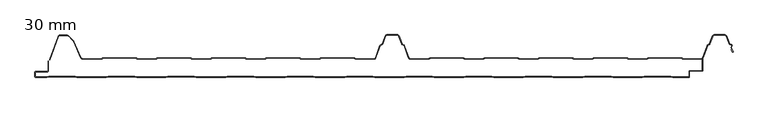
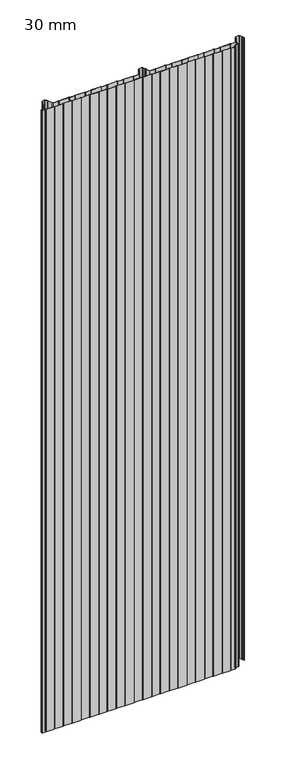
"""IFC4 building model written with IfcOpenShell, lengths in millimetres: plate geometry, HIANSA PANEL - H20.F01.004-PANELES DE CUBIERTA SIN TAPAJUNTA - EASY CUB 3GR - Panel de Muro Cortina : 30 mm."""

from ifc_helpers import new_model, si_unit, point, frame_2d, origin, origin_with_axes, place, context, project, spatial, polyline, circle_curve, trimmed, segment, composite_curve, outline, extrude, source, transform, mapped, element, save


def plate_30_mm_89a1664e(model_context):
    return source(origin(), model_context, "Body", "SweptSolid", [
        extrude(outline(polyline([(513.0200154, 26.9139578), (513.5200154, 28.0369762), (513.5200154, 16.25), (513.0200154, 15.535926), (513.0200154, 26.9139578)])), origin_with_axes(), (0.0, 0.0, 1.0), 3390.8509027),
        extrude(outline(polyline([(-486.0046627, 15.4267187), (-486.4799843, 16.25), (-486.4799843, 24.6399643), (-486.0046627, 25.4632456), (-486.0046627, 15.4267187)])), origin_with_axes(), (0.0, 0.0, 1.0), 3390.8509027),
        extrude(outline(composite_curve([segment(trimmed(circle_curve(frame_2d((-486.9813922, 9.7640482)), 0.998858), [point((-485.9825353, 9.7655207))], [point((-486.9813922, 8.7651902))], False, "CARTESIAN"), True, "CONTINUOUS"), segment(polyline([(-486.9813922, 8.7651902), (-505.4768583, 8.7651905)]), True, "CONTINUOUS"), segment(trimmed(circle_curve(frame_2d((-505.4798404, 8.2649415)), 0.5002578), [point((-505.4768583, 8.7651905))], [point((-505.9800982, 8.2649415))], True, "CARTESIAN"), True, "CONTINUOUS"), segment(polyline([(-505.9800982, 8.2649415), (-505.9800982, 1.0000206)]), True, "CONTINUOUS"), segment(trimmed(circle_curve(frame_2d((-505.4800365, 1.0000206)), 0.5000618), [point((-505.9800982, 1.0000206))], [point((-505.4800365, 0.4999588))], True, "CARTESIAN"), True, "CONTINUOUS"), segment(polyline([(-505.4800365, 0.4999588), (-488.3212473, 0.4999588), (-485.3211238, 1.5), (-445.1588462, 1.5), (-442.1588462, 0.5), (-397.3211238, 0.5), (-394.3211238, 1.5), (-354.1588462, 1.5), (-351.1588462, 0.5), (-306.3211238, 0.5), (-303.3211238, 1.5), (-263.1588462, 1.5), (-260.1588462, 0.5), (-215.3211238, 0.5), (-212.3211238, 1.5), (-172.1588462, 1.5), (-169.1588462, 0.5), (-124.3211238, 0.5), (-121.3211238, 1.5), (-81.1588462, 1.5), (-78.1588462, 0.5), (-33.3211238, 0.5), (-30.3211238, 1.5), (9.8411538, 1.5), (12.8411538, 0.5), (57.6788762, 0.5), (60.6788762, 1.5), (100.8411538, 1.5), (103.8411538, 0.5), (148.6788762, 0.5), (151.6788762, 1.5), (191.8411538, 1.5), (194.8411538, 0.5), (239.6788762, 0.5), (242.6788762, 1.5), (282.8411538, 1.5), (285.8411538, 0.5), (330.6788762, 0.5), (333.6788762, 1.5), (373.8411538, 1.5), (376.8411538, 0.5), (421.6788762, 0.5), (424.6788762, 1.5), (464.8411538, 1.5), (467.8411538, 0.5), (492.5200154, 0.5)]), True, "CONTINUOUS"), segment(trimmed(circle_curve(frame_2d((492.5200154, 1.0)), 0.5), [point((492.5200154, 0.5))], [point((493.0200154, 1.0))], True, "CARTESIAN"), True, "CONTINUOUS"), segment(polyline([(493.0200154, 1.0), (493.0200154, 9.1271447)]), True, "CONTINUOUS"), segment(trimmed(circle_curve(frame_2d((494.0200154, 9.1271447)), 1.0), [point((493.0200154, 9.1271447))], [point((494.0200154, 10.1271447))], False, "CARTESIAN"), True, "CONTINUOUS"), segment(polyline([(494.0200154, 10.1271447), (512.5169602, 10.1271447)]), True, "CONTINUOUS"), segment(trimmed(circle_curve(frame_2d((512.5200154, 10.6271354)), 0.5), [point((512.5169602, 10.1271447))], [point((513.0200154, 10.6271354))], True, "CARTESIAN"), True, "CONTINUOUS"), segment(polyline([(513.0200154, 10.6271354), (513.0200154, 15.535926), (513.5200154, 16.25), (513.5200154, 10.6271354)]), True, "CONTINUOUS"), segment(trimmed(circle_curve(frame_2d((512.5200154, 10.6271354)), 1.0), [point((513.5200154, 10.6271354))], [point((512.5200154, 9.6271354))], False, "CARTESIAN"), True, "CONTINUOUS"), segment(polyline([(512.5200154, 9.6271354), (494.0230705, 9.6271354)]), True, "CONTINUOUS"), segment(trimmed(circle_curve(frame_2d((494.0200154, 9.1271447)), 0.5), [point((494.0230705, 9.6271354))], [point((493.5200154, 9.1271447))], True, "CARTESIAN"), True, "CONTINUOUS"), segment(polyline([(493.5200154, 9.1271447), (493.5200154, 1.0)]), True, "CONTINUOUS"), segment(trimmed(circle_curve(frame_2d((492.5200154, 1.0)), 1.0), [point((493.5200154, 1.0))], [point((492.5200154, 0.0))], False, "CARTESIAN"), True, "CONTINUOUS"), segment(polyline([(492.5200154, 0.0), (467.760015, 0.0), (464.760015, 1.0), (424.760015, 1.0), (421.760015, 0.0), (376.760015, 0.0), (373.760015, 1.0), (333.760015, 1.0), (330.760015, 0.0), (285.760015, 0.0), (282.760015, 1.0), (242.760015, 1.0), (239.760015, 0.0), (194.760015, 0.0), (191.760015, 1.0), (151.760015, 1.0), (148.760015, 0.0), (103.760015, 0.0), (100.760015, 1.0), (60.760015, 1.0), (57.760015, 0.0), (12.760015, 0.0), (9.760015, 1.0), (-30.239985, 1.0), (-33.239985, 0.0), (-78.239985, 0.0), (-81.239985, 1.0), (-121.239985, 1.0), (-124.239985, 0.0), (-169.239985, 0.0), (-172.239985, 1.0), (-212.239985, 1.0), (-215.239985, 0.0), (-260.239985, 0.0), (-263.239985, 1.0), (-303.239985, 1.0), (-306.239985, 0.0), (-351.239985, 0.0), (-354.239985, 1.0), (-394.239985, 1.0), (-397.239985, 0.0), (-442.239985, 0.0), (-445.239985, 1.0), (-485.239985, 1.0), (-488.239985, 0.0), (-505.479985, 0.0)]), True, "CONTINUOUS"), segment(trimmed(circle_curve(frame_2d((-505.479985, 1.0)), 1.0), [point((-505.479985, 0.0))], [point((-506.479985, 1.0))], False, "CARTESIAN"), True, "CONTINUOUS"), segment(polyline([(-506.479985, 1.0), (-506.479985, 8.262651)]), True, "CONTINUOUS"), segment(trimmed(circle_curve(frame_2d((-505.479985, 8.262651)), 1.0), [point((-506.479985, 8.262651))], [point((-505.479985, 9.262651))], False, "CARTESIAN"), True, "CONTINUOUS"), segment(polyline([(-505.479985, 9.262651), (-486.9830395, 9.262651)]), True, "CONTINUOUS"), segment(trimmed(circle_curve(frame_2d((-486.9799843, 9.7626416)), 0.5), [point((-486.9830395, 9.262651))], [point((-486.4799843, 9.7626416))], True, "CARTESIAN"), True, "CONTINUOUS"), segment(polyline([(-486.4799843, 9.7626416), (-486.4799843, 16.25), (-485.9825353, 15.388393), (-485.9825353, 9.7655207)]), True, "CONTINUOUS")], self_intersect=False)), origin_with_axes(), (0.0, 0.0, 1.0), 3390.8509027),
        extrude(outline(composite_curve([segment(polyline([(-484.137089, 26.794297), (-470.9862026, 62.9260604)]), True, "CONTINUOUS"), segment(trimmed(circle_curve(frame_2d((-468.1671247, 61.9)), 3.0), [point((-470.9862026, 62.9260604))], [point((-468.1671247, 64.9))], False, "CARTESIAN"), True, "CONTINUOUS"), segment(polyline([(-468.1671247, 64.9), (-458.1823567, 64.9)]), True, "CONTINUOUS"), segment(trimmed(circle_curve(frame_2d((-458.1823567, 59.9)), 5.0), [point((-458.1823567, 64.9))], [point((-454.6468228, 63.4355339))], False, "CARTESIAN"), True, "CONTINUOUS"), segment(polyline([(-454.6468228, 63.4355339), (-447.9600419, 56.7487529)]), True, "CONTINUOUS"), segment(trimmed(circle_curve(frame_2d((-451.4955758, 53.213219)), 5.0), [point((-447.9600419, 56.7487529))], [point((-446.9079188, 55.2015359))], False, "CARTESIAN"), True, "CONTINUOUS"), segment(polyline([(-446.9079188, 55.2015359), (-436.1184882, 30.3070099)]), True, "CONTINUOUS"), segment(trimmed(circle_curve(frame_2d((-433.365894, 31.5)), 3.0), [point((-436.1184882, 30.3070099))], [point((-433.365894, 28.5))], True, "CARTESIAN"), True, "CONTINUOUS"), segment(polyline([(-433.365894, 28.5), (-405.5009812, 28.5)]), True, "CONTINUOUS"), segment(trimmed(circle_curve(frame_2d((-405.5009812, 30.5)), 2.0), [point((-405.5009812, 28.5))], [point((-404.2709893, 28.9229394))], True, "CARTESIAN"), True, "CONTINUOUS"), segment(polyline([(-404.2709893, 28.9229394), (-403.6196414, 29.5404749)]), True, "CONTINUOUS"), segment(trimmed(circle_curve(frame_2d((-402.3441269, 28.0)), 2.0), [point((-403.6196414, 29.5404749))], [point((-402.3441269, 30.0))], False, "CARTESIAN"), True, "CONTINUOUS"), segment(polyline([(-402.3441269, 30.0), (-352.3428935, 30.0)]), True, "CONTINUOUS"), segment(trimmed(circle_curve(frame_2d((-352.3428935, 28.0)), 2.0), [point((-352.3428935, 30.0))], [point((-351.067379, 29.5404749))], False, "CARTESIAN"), True, "CONTINUOUS"), segment(polyline([(-351.067379, 29.5404749), (-350.4160311, 28.9229394)]), True, "CONTINUOUS"), segment(trimmed(circle_curve(frame_2d((-349.1860393, 30.5)), 2.0), [point((-350.4160311, 28.9229394))], [point((-349.1860393, 28.5))], True, "CARTESIAN"), True, "CONTINUOUS"), segment(polyline([(-349.1860393, 28.5), (-322.1676478, 28.5)]), True, "CONTINUOUS"), segment(trimmed(circle_curve(frame_2d((-322.1676478, 30.5)), 2.0), [point((-322.1676478, 28.5))], [point((-320.937656, 28.9229394))], True, "CARTESIAN"), True, "CONTINUOUS"), segment(polyline([(-320.937656, 28.9229394), (-320.286308, 29.5404749)]), True, "CONTINUOUS"), segment(trimmed(circle_curve(frame_2d((-319.0107936, 28.0)), 2.0), [point((-320.286308, 29.5404749))], [point((-319.0107936, 30.0))], False, "CARTESIAN"), True, "CONTINUOUS"), segment(polyline([(-319.0107936, 30.0), (-269.0095602, 30.0)]), True, "CONTINUOUS"), segment(trimmed(circle_curve(frame_2d((-269.0095602, 28.0)), 2.0), [point((-269.0095602, 30.0))], [point((-267.7340457, 29.5404749))], False, "CARTESIAN"), True, "CONTINUOUS"), segment(polyline([(-267.7340457, 29.5404749), (-267.0826978, 28.9229394)]), True, "CONTINUOUS"), segment(trimmed(circle_curve(frame_2d((-265.8527059, 30.5)), 2.0), [point((-267.0826978, 28.9229394))], [point((-265.8527059, 28.5))], True, "CARTESIAN"), True, "CONTINUOUS"), segment(polyline([(-265.8527059, 28.5), (-238.8343145, 28.5)]), True, "CONTINUOUS"), segment(trimmed(circle_curve(frame_2d((-238.8343145, 30.5)), 2.0), [point((-238.8343145, 28.5))], [point((-237.6043226, 28.9229394))], True, "CARTESIAN"), True, "CONTINUOUS"), segment(polyline([(-237.6043226, 28.9229394), (-236.9529747, 29.5404749)]), True, "CONTINUOUS"), segment(trimmed(circle_curve(frame_2d((-235.6774602, 28.0)), 2.0), [point((-236.9529747, 29.5404749))], [point((-235.6774602, 30.0))], False, "CARTESIAN"), True, "CONTINUOUS"), segment(polyline([(-235.6774602, 30.0), (-185.6762268, 30.0)]), True, "CONTINUOUS"), segment(trimmed(circle_curve(frame_2d((-185.6762268, 28.0)), 2.0), [point((-185.6762268, 30.0))], [point((-184.4007124, 29.5404749))], False, "CARTESIAN"), True, "CONTINUOUS"), segment(polyline([(-184.4007124, 29.5404749), (-183.7493645, 28.9229394)]), True, "CONTINUOUS"), segment(trimmed(circle_curve(frame_2d((-182.5193726, 30.5)), 2.0), [point((-183.7493645, 28.9229394))], [point((-182.5193726, 28.5))], True, "CARTESIAN"), True, "CONTINUOUS"), segment(polyline([(-182.5193726, 28.5), (-155.5009812, 28.5)]), True, "CONTINUOUS"), segment(trimmed(circle_curve(frame_2d((-155.5009812, 30.5)), 2.0), [point((-155.5009812, 28.5))], [point((-154.2709893, 28.9229394))], True, "CARTESIAN"), True, "CONTINUOUS"), segment(polyline([(-154.2709893, 28.9229394), (-153.6196414, 29.5404749)]), True, "CONTINUOUS"), segment(trimmed(circle_curve(frame_2d((-152.3441269, 28.0)), 2.0), [point((-153.6196414, 29.5404749))], [point((-152.3441269, 30.0))], False, "CARTESIAN"), True, "CONTINUOUS"), segment(polyline([(-152.3441269, 30.0), (-102.3428935, 30.0)]), True, "CONTINUOUS"), segment(trimmed(circle_curve(frame_2d((-102.3428935, 28.0)), 2.0), [point((-102.3428935, 30.0))], [point((-101.067379, 29.5404749))], False, "CARTESIAN"), True, "CONTINUOUS"), segment(polyline([(-101.067379, 29.5404749), (-100.4160311, 28.9229394)]), True, "CONTINUOUS"), segment(trimmed(circle_curve(frame_2d((-99.1860393, 30.5)), 2.0), [point((-100.4160311, 28.9229394))], [point((-99.1860393, 28.5))], True, "CARTESIAN"), True, "CONTINUOUS"), segment(polyline([(-99.1860393, 28.5), (-72.1676478, 28.5)]), True, "CONTINUOUS"), segment(trimmed(circle_curve(frame_2d((-72.1676478, 30.5)), 2.0), [point((-72.1676478, 28.5))], [point((-70.937656, 28.9229394))], True, "CARTESIAN"), True, "CONTINUOUS"), segment(polyline([(-70.937656, 28.9229394), (-70.286308, 29.5404749)]), True, "CONTINUOUS"), segment(trimmed(circle_curve(frame_2d((-69.0107936, 28.0)), 2.0), [point((-70.286308, 29.5404749))], [point((-69.0107936, 30.0))], False, "CARTESIAN"), True, "CONTINUOUS"), segment(polyline([(-69.0107936, 30.0), (-19.0095602, 30.0)]), True, "CONTINUOUS"), segment(trimmed(circle_curve(frame_2d((-19.0095602, 28.0)), 2.0), [point((-19.0095602, 30.0))], [point((-17.7340457, 29.5404749))], False, "CARTESIAN"), True, "CONTINUOUS"), segment(polyline([(-17.7340457, 29.5404749), (-17.0826978, 28.9229394)]), True, "CONTINUOUS"), segment(trimmed(circle_curve(frame_2d((-15.8527059, 30.5)), 2.0), [point((-17.0826978, 28.9229394))], [point((-15.8527059, 28.5))], True, "CARTESIAN"), True, "CONTINUOUS"), segment(polyline([(-15.8527059, 28.5), (11.1656852, 28.5)]), True, "CONTINUOUS"), segment(trimmed(circle_curve(frame_2d((11.1656852, 31.5)), 3.0), [point((11.1656852, 28.5))], [point((13.984763, 30.4739395))], True, "CARTESIAN"), True, "CONTINUOUS"), segment(polyline([(13.984763, 30.4739395), (20.7029918, 48.9321192)]), True, "CONTINUOUS"), segment(trimmed(circle_curve(frame_2d((22.2064999, 48.3848869)), 1.6), [point((20.7029918, 48.9321192))], [point((21.6592677, 49.8883951))], False, "CARTESIAN"), True, "CONTINUOUS"), segment(polyline([(21.6592677, 49.8883951), (23.5053315, 50.5603074)]), True, "CONTINUOUS"), segment(trimmed(circle_curve(frame_2d((23.1633114, 51.5)), 1.0), [point((23.5053315, 50.5603074))], [point((24.103004, 51.1579799))], True, "CARTESIAN"), True, "CONTINUOUS"), segment(polyline([(24.103004, 51.1579799), (28.4609262, 63.1312725)]), True, "CONTINUOUS"), segment(trimmed(circle_curve(frame_2d((31.8438196, 61.9)), 3.6), [point((28.4609262, 63.1312725))], [point((31.8438196, 65.5))], False, "CARTESIAN"), True, "CONTINUOUS"), segment(polyline([(31.8438196, 65.5), (46.8024933, 65.5)]), True, "CONTINUOUS"), segment(trimmed(circle_curve(frame_2d((46.8024933, 61.9)), 3.6), [point((46.8024933, 65.5))], [point((50.1853868, 63.1312725))], False, "CARTESIAN"), True, "CONTINUOUS"), segment(polyline([(50.1853868, 63.1312725), (54.5433089, 51.1579799)]), True, "CONTINUOUS"), segment(trimmed(circle_curve(frame_2d((55.4830015, 51.5)), 1.0), [point((54.5433089, 51.1579799))], [point((55.1409814, 50.5603074))], True, "CARTESIAN"), True, "CONTINUOUS"), segment(polyline([(55.1409814, 50.5603074), (56.9870452, 49.8883951)]), True, "CONTINUOUS"), segment(trimmed(circle_curve(frame_2d((56.439813, 48.3848869)), 1.6), [point((56.9870452, 49.8883951))], [point((57.9433212, 48.9321192))], False, "CARTESIAN"), True, "CONTINUOUS"), segment(polyline([(57.9433212, 48.9321192), (64.6615499, 30.4739395)]), True, "CONTINUOUS"), segment(trimmed(circle_curve(frame_2d((67.4806278, 31.5)), 3.0), [point((64.6615499, 30.4739395))], [point((67.4806278, 28.5))], True, "CARTESIAN"), True, "CONTINUOUS"), segment(polyline([(67.4806278, 28.5), (94.4990188, 28.5)]), True, "CONTINUOUS"), segment(trimmed(circle_curve(frame_2d((94.4990188, 30.5)), 2.0), [point((94.4990188, 28.5))], [point((95.7290107, 28.9229394))], True, "CARTESIAN"), True, "CONTINUOUS"), segment(polyline([(95.7290107, 28.9229394), (96.3803586, 29.5404749)]), True, "CONTINUOUS"), segment(trimmed(circle_curve(frame_2d((97.6558731, 28.0)), 2.0), [point((96.3803586, 29.5404749))], [point((97.6558731, 30.0))], False, "CARTESIAN"), True, "CONTINUOUS"), segment(polyline([(97.6558731, 30.0), (147.6571065, 30.0)]), True, "CONTINUOUS"), segment(trimmed(circle_curve(frame_2d((147.6571065, 28.0)), 2.0), [point((147.6571065, 30.0))], [point((148.932621, 29.5404749))], False, "CARTESIAN"), True, "CONTINUOUS"), segment(polyline([(148.932621, 29.5404749), (149.5839689, 28.9229394)]), True, "CONTINUOUS"), segment(trimmed(circle_curve(frame_2d((150.8139607, 30.5)), 2.0), [point((149.5839689, 28.9229394))], [point((150.8139607, 28.5))], True, "CARTESIAN"), True, "CONTINUOUS"), segment(polyline([(150.8139607, 28.5), (177.8323522, 28.5)]), True, "CONTINUOUS"), segment(trimmed(circle_curve(frame_2d((177.8323522, 30.5)), 2.0), [point((177.8323522, 28.5))], [point((179.062344, 28.9229394))], True, "CARTESIAN"), True, "CONTINUOUS"), segment(polyline([(179.062344, 28.9229394), (179.713692, 29.5404749)]), True, "CONTINUOUS"), segment(trimmed(circle_curve(frame_2d((180.9892064, 28.0)), 2.0), [point((179.713692, 29.5404749))], [point((180.9892064, 30.0))], False, "CARTESIAN"), True, "CONTINUOUS"), segment(polyline([(180.9892064, 30.0), (230.9904398, 30.0)]), True, "CONTINUOUS"), segment(trimmed(circle_curve(frame_2d((230.9904398, 28.0)), 2.0), [point((230.9904398, 30.0))], [point((232.2659543, 29.5404749))], False, "CARTESIAN"), True, "CONTINUOUS"), segment(polyline([(232.2659543, 29.5404749), (232.9173022, 28.9229394)]), True, "CONTINUOUS"), segment(trimmed(circle_curve(frame_2d((234.1472941, 30.5)), 2.0), [point((232.9173022, 28.9229394))], [point((234.1472941, 28.5))], True, "CARTESIAN"), True, "CONTINUOUS"), segment(polyline([(234.1472941, 28.5), (261.1656855, 28.5)]), True, "CONTINUOUS"), segment(trimmed(circle_curve(frame_2d((261.1656855, 30.5)), 2.0), [point((261.1656855, 28.5))], [point((262.3956774, 28.9229394))], True, "CARTESIAN"), True, "CONTINUOUS"), segment(polyline([(262.3956774, 28.9229394), (263.0470253, 29.5404749)]), True, "CONTINUOUS"), segment(trimmed(circle_curve(frame_2d((264.3225398, 28.0)), 2.0), [point((263.0470253, 29.5404749))], [point((264.3225398, 30.0))], False, "CARTESIAN"), True, "CONTINUOUS"), segment(polyline([(264.3225398, 30.0), (314.3237732, 30.0)]), True, "CONTINUOUS"), segment(trimmed(circle_curve(frame_2d((314.3237732, 28.0)), 2.0), [point((314.3237732, 30.0))], [point((315.5992876, 29.5404749))], False, "CARTESIAN"), True, "CONTINUOUS"), segment(polyline([(315.5992876, 29.5404749), (316.2506355, 28.9229394)]), True, "CONTINUOUS"), segment(trimmed(circle_curve(frame_2d((317.4806274, 30.5)), 2.0), [point((316.2506355, 28.9229394))], [point((317.4806274, 28.5))], True, "CARTESIAN"), True, "CONTINUOUS"), segment(polyline([(317.4806274, 28.5), (344.4990188, 28.5)]), True, "CONTINUOUS"), segment(trimmed(circle_curve(frame_2d((344.4990188, 30.5)), 2.0), [point((344.4990188, 28.5))], [point((345.7290107, 28.9229394))], True, "CARTESIAN"), True, "CONTINUOUS"), segment(polyline([(345.7290107, 28.9229394), (346.3803586, 29.5404749)]), True, "CONTINUOUS"), segment(trimmed(circle_curve(frame_2d((347.6558731, 28.0)), 2.0), [point((346.3803586, 29.5404749))], [point((347.6558731, 30.0))], False, "CARTESIAN"), True, "CONTINUOUS"), segment(polyline([(347.6558731, 30.0), (397.6571065, 30.0)]), True, "CONTINUOUS"), segment(trimmed(circle_curve(frame_2d((397.6571065, 28.0)), 2.0), [point((397.6571065, 30.0))], [point((398.932621, 29.5404749))], False, "CARTESIAN"), True, "CONTINUOUS"), segment(polyline([(398.932621, 29.5404749), (399.5839689, 28.9229394)]), True, "CONTINUOUS"), segment(trimmed(circle_curve(frame_2d((400.8139607, 30.5)), 2.0), [point((399.5839689, 28.9229394))], [point((400.8139607, 28.5))], True, "CARTESIAN"), True, "CONTINUOUS"), segment(polyline([(400.8139607, 28.5), (427.8323522, 28.5)]), True, "CONTINUOUS"), segment(trimmed(circle_curve(frame_2d((427.8323522, 30.5)), 2.0), [point((427.8323522, 28.5))], [point((429.062344, 28.9229394))], True, "CARTESIAN"), True, "CONTINUOUS"), segment(polyline([(429.062344, 28.9229394), (429.713692, 29.5404749)]), True, "CONTINUOUS"), segment(trimmed(circle_curve(frame_2d((430.9892064, 28.0)), 2.0), [point((429.713692, 29.5404749))], [point((430.9892064, 30.0))], False, "CARTESIAN"), True, "CONTINUOUS"), segment(polyline([(430.9892064, 30.0), (480.9904398, 30.0)]), True, "CONTINUOUS"), segment(trimmed(circle_curve(frame_2d((480.9904398, 28.0)), 2.0), [point((480.9904398, 30.0))], [point((482.2659543, 29.5404749))], False, "CARTESIAN"), True, "CONTINUOUS"), segment(polyline([(482.2659543, 29.5404749), (482.9173022, 28.9229394)]), True, "CONTINUOUS"), segment(trimmed(circle_curve(frame_2d((484.1472941, 30.5)), 2.0), [point((482.9173022, 28.9229394))], [point((484.1472941, 28.5))], True, "CARTESIAN"), True, "CONTINUOUS"), segment(polyline([(484.1472941, 28.5), (511.1656852, 28.5)]), True, "CONTINUOUS"), segment(trimmed(circle_curve(frame_2d((511.1656852, 31.5)), 3.0), [point((511.1656852, 28.5))], [point((513.984763, 30.4739395))], True, "CARTESIAN"), True, "CONTINUOUS"), segment(polyline([(513.984763, 30.4739395), (520.7029918, 48.9321192)]), True, "CONTINUOUS"), segment(trimmed(circle_curve(frame_2d((522.2064999, 48.3848869)), 1.6), [point((520.7029918, 48.9321192))], [point((521.6592677, 49.8883951))], False, "CARTESIAN"), True, "CONTINUOUS"), segment(polyline([(521.6592677, 49.8883951), (523.5053315, 50.5603074)]), True, "CONTINUOUS"), segment(trimmed(circle_curve(frame_2d((523.1633114, 51.5)), 1.0), [point((523.5053315, 50.5603074))], [point((524.103004, 51.1579799))], True, "CARTESIAN"), True, "CONTINUOUS"), segment(polyline([(524.103004, 51.1579799), (528.4609262, 63.1312725)]), True, "CONTINUOUS"), segment(trimmed(circle_curve(frame_2d((531.8438196, 61.9)), 3.6), [point((528.4609262, 63.1312725))], [point((531.8438196, 65.5))], False, "CARTESIAN"), True, "CONTINUOUS"), segment(polyline([(531.8438196, 65.5), (546.9192854, 65.5)]), True, "CONTINUOUS"), segment(trimmed(circle_curve(frame_2d((546.9192854, 61.9)), 3.6), [point((546.9192854, 65.5))], [point((550.2444191, 63.2796687))], False, "CARTESIAN"), True, "CONTINUOUS"), segment(polyline([(550.2444191, 63.2796687), (555.167008, 51.4157576), (557.5975103, 50.2847949)]), True, "CONTINUOUS"), segment(trimmed(circle_curve(frame_2d((556.9224975, 48.8341544)), 1.6), [point((557.5975103, 50.2847949))], [point((558.4262226, 48.2875187))], False, "CARTESIAN"), True, "CONTINUOUS"), segment(polyline([(558.4262226, 48.2875187), (557.5103517, 45.7680746), (560.1304895, 39.4532914)]), True, "CONTINUOUS"), segment(trimmed(circle_curve(frame_2d((559.6686653, 39.2616707)), 0.5), [point((560.1304895, 39.4532914))], [point((559.2068412, 39.0700501))], False, "CARTESIAN"), True, "CONTINUOUS"), segment(polyline([(559.2068412, 39.0700501), (557.7298191, 42.6298149), (557.9300937, 43.4517949), (557.1976077, 45.2171566)]), True, "CONTINUOUS"), segment(trimmed(circle_curve(frame_2d((558.5830801, 45.7920185)), 1.5), [point((557.1976077, 45.2171566))], [point((557.1733377, 46.3044895))], False, "CARTESIAN"), True, "CONTINUOUS"), segment(polyline([(557.1733377, 46.3044895), (557.9563085, 48.4583424)]), True, "CONTINUOUS"), segment(trimmed(circle_curve(frame_2d((556.9224975, 48.8341544)), 1.1), [point((557.9563085, 48.4583424))], [point((557.3865688, 49.8314697))], True, "CARTESIAN"), True, "CONTINUOUS"), segment(polyline([(557.3865688, 49.8314697), (555.3087516, 50.7983208)]), True, "CONTINUOUS"), segment(trimmed(circle_curve(frame_2d((555.9415761, 52.1582962)), 1.5), [point((555.3087516, 50.7983208))], [point((554.5561037, 51.5834343))], False, "CARTESIAN"), True, "CONTINUOUS"), segment(polyline([(554.5561037, 51.5834343), (549.782595, 63.088048)]), True, "CONTINUOUS"), segment(trimmed(circle_curve(frame_2d((546.9192854, 61.9)), 3.1), [point((549.782595, 63.088048))], [point((546.9192854, 65.0))], True, "CARTESIAN"), True, "CONTINUOUS"), segment(polyline([(546.9192854, 65.0), (531.8438196, 65.0)]), True, "CONTINUOUS"), segment(trimmed(circle_curve(frame_2d((531.8438196, 61.9)), 3.1), [point((531.8438196, 65.0))], [point((528.9307725, 62.9602624))], True, "CARTESIAN"), True, "CONTINUOUS"), segment(polyline([(528.9307725, 62.9602624), (524.5728503, 50.9869698)]), True, "CONTINUOUS"), segment(trimmed(circle_curve(frame_2d((523.1633114, 51.5)), 1.5), [point((524.5728503, 50.9869698))], [point((523.6763416, 50.0904611))], False, "CARTESIAN"), True, "CONTINUOUS"), segment(polyline([(523.6763416, 50.0904611), (521.8302778, 49.4185488)]), True, "CONTINUOUS"), segment(trimmed(circle_curve(frame_2d((522.2064999, 48.3848869)), 1.1), [point((521.8302778, 49.4185488))], [point((521.1728381, 48.7611091))], True, "CARTESIAN"), True, "CONTINUOUS"), segment(polyline([(521.1728381, 48.7611091), (514.4546093, 30.3029294)]), True, "CONTINUOUS"), segment(trimmed(circle_curve(frame_2d((511.1656852, 31.5)), 3.5), [point((514.4546093, 30.3029294))], [point((511.1656852, 28.0))], False, "CARTESIAN"), True, "CONTINUOUS"), segment(polyline([(511.1656852, 28.0), (484.1472941, 28.0)]), True, "CONTINUOUS"), segment(trimmed(circle_curve(frame_2d((484.1472941, 30.5)), 2.5), [point((484.1472941, 28.0))], [point((482.5898135, 28.54443))], False, "CARTESIAN"), True, "CONTINUOUS"), segment(polyline([(482.5898135, 28.54443), (481.9350123, 29.1652394)]), True, "CONTINUOUS"), segment(trimmed(circle_curve(frame_2d((480.9904398, 28.0)), 1.5), [point((481.9350123, 29.1652394))], [point((480.9904398, 29.5))], True, "CARTESIAN"), True, "CONTINUOUS"), segment(polyline([(480.9904398, 29.5), (430.9892064, 29.5)]), True, "CONTINUOUS"), segment(trimmed(circle_curve(frame_2d((430.9892064, 28.0)), 1.5), [point((430.9892064, 29.5))], [point((430.044634, 29.1652394))], True, "CARTESIAN"), True, "CONTINUOUS"), segment(polyline([(430.044634, 29.1652394), (429.3898328, 28.54443)]), True, "CONTINUOUS"), segment(trimmed(circle_curve(frame_2d((427.8323522, 30.5)), 2.5), [point((429.3898328, 28.54443))], [point((427.8323522, 28.0))], False, "CARTESIAN"), True, "CONTINUOUS"), segment(polyline([(427.8323522, 28.0), (400.8139607, 28.0)]), True, "CONTINUOUS"), segment(trimmed(circle_curve(frame_2d((400.8139607, 30.5)), 2.5), [point((400.8139607, 28.0))], [point((399.2564801, 28.54443))], False, "CARTESIAN"), True, "CONTINUOUS"), segment(polyline([(399.2564801, 28.54443), (398.6016789, 29.1652394)]), True, "CONTINUOUS"), segment(trimmed(circle_curve(frame_2d((397.6571065, 28.0)), 1.5), [point((398.6016789, 29.1652394))], [point((397.6571065, 29.5))], True, "CARTESIAN"), True, "CONTINUOUS"), segment(polyline([(397.6571065, 29.5), (347.6558731, 29.5)]), True, "CONTINUOUS"), segment(trimmed(circle_curve(frame_2d((347.6558731, 28.0)), 1.5), [point((347.6558731, 29.5))], [point((346.7113007, 29.1652394))], True, "CARTESIAN"), True, "CONTINUOUS"), segment(polyline([(346.7113007, 29.1652394), (346.0564995, 28.54443)]), True, "CONTINUOUS"), segment(trimmed(circle_curve(frame_2d((344.4990188, 30.5)), 2.5), [point((346.0564995, 28.54443))], [point((344.4990188, 28.0))], False, "CARTESIAN"), True, "CONTINUOUS"), segment(polyline([(344.4990188, 28.0), (317.4806274, 28.0)]), True, "CONTINUOUS"), segment(trimmed(circle_curve(frame_2d((317.4806274, 30.5)), 2.5), [point((317.4806274, 28.0))], [point((315.9231468, 28.54443))], False, "CARTESIAN"), True, "CONTINUOUS"), segment(polyline([(315.9231468, 28.54443), (315.2683456, 29.1652394)]), True, "CONTINUOUS"), segment(trimmed(circle_curve(frame_2d((314.3237732, 28.0)), 1.5), [point((315.2683456, 29.1652394))], [point((314.3237732, 29.5))], True, "CARTESIAN"), True, "CONTINUOUS"), segment(polyline([(314.3237732, 29.5), (264.3225398, 29.5)]), True, "CONTINUOUS"), segment(trimmed(circle_curve(frame_2d((264.3225398, 28.0)), 1.5), [point((264.3225398, 29.5))], [point((263.3779673, 29.1652394))], True, "CARTESIAN"), True, "CONTINUOUS"), segment(polyline([(263.3779673, 29.1652394), (262.7231661, 28.54443)]), True, "CONTINUOUS"), segment(trimmed(circle_curve(frame_2d((261.1656855, 30.5)), 2.5), [point((262.7231661, 28.54443))], [point((261.1656855, 28.0))], False, "CARTESIAN"), True, "CONTINUOUS"), segment(polyline([(261.1656855, 28.0), (234.1472941, 28.0)]), True, "CONTINUOUS"), segment(trimmed(circle_curve(frame_2d((234.1472941, 30.5)), 2.5), [point((234.1472941, 28.0))], [point((232.5898135, 28.54443))], False, "CARTESIAN"), True, "CONTINUOUS"), segment(polyline([(232.5898135, 28.54443), (231.9350123, 29.1652394)]), True, "CONTINUOUS"), segment(trimmed(circle_curve(frame_2d((230.9904398, 28.0)), 1.5), [point((231.9350123, 29.1652394))], [point((230.9904398, 29.5))], True, "CARTESIAN"), True, "CONTINUOUS"), segment(polyline([(230.9904398, 29.5), (180.9892064, 29.5)]), True, "CONTINUOUS"), segment(trimmed(circle_curve(frame_2d((180.9892064, 28.0)), 1.5), [point((180.9892064, 29.5))], [point((180.044634, 29.1652394))], True, "CARTESIAN"), True, "CONTINUOUS"), segment(polyline([(180.044634, 29.1652394), (179.3898328, 28.54443)]), True, "CONTINUOUS"), segment(trimmed(circle_curve(frame_2d((177.8323522, 30.5)), 2.5), [point((179.3898328, 28.54443))], [point((177.8323522, 28.0))], False, "CARTESIAN"), True, "CONTINUOUS"), segment(polyline([(177.8323522, 28.0), (150.8139607, 28.0)]), True, "CONTINUOUS"), segment(trimmed(circle_curve(frame_2d((150.8139607, 30.5)), 2.5), [point((150.8139607, 28.0))], [point((149.2564801, 28.54443))], False, "CARTESIAN"), True, "CONTINUOUS"), segment(polyline([(149.2564801, 28.54443), (148.6016789, 29.1652394)]), True, "CONTINUOUS"), segment(trimmed(circle_curve(frame_2d((147.6571065, 28.0)), 1.5), [point((148.6016789, 29.1652394))], [point((147.6571065, 29.5))], True, "CARTESIAN"), True, "CONTINUOUS"), segment(polyline([(147.6571065, 29.5), (97.6558731, 29.5)]), True, "CONTINUOUS"), segment(trimmed(circle_curve(frame_2d((97.6558731, 28.0)), 1.5), [point((97.6558731, 29.5))], [point((96.7113007, 29.1652394))], True, "CARTESIAN"), True, "CONTINUOUS"), segment(polyline([(96.7113007, 29.1652394), (96.0564995, 28.54443)]), True, "CONTINUOUS"), segment(trimmed(circle_curve(frame_2d((94.4990188, 30.5)), 2.5), [point((96.0564995, 28.54443))], [point((94.4990188, 28.0))], False, "CARTESIAN"), True, "CONTINUOUS"), segment(polyline([(94.4990188, 28.0), (67.4806278, 28.0)]), True, "CONTINUOUS"), segment(trimmed(circle_curve(frame_2d((67.4806278, 31.5)), 3.5), [point((67.4806278, 28.0))], [point((64.1917036, 30.3029294))], False, "CARTESIAN"), True, "CONTINUOUS"), segment(polyline([(64.1917036, 30.3029294), (57.4734749, 48.7611091)]), True, "CONTINUOUS"), segment(trimmed(circle_curve(frame_2d((56.439813, 48.3848869)), 1.1), [point((57.4734749, 48.7611091))], [point((56.8160352, 49.4185488))], True, "CARTESIAN"), True, "CONTINUOUS"), segment(polyline([(56.8160352, 49.4185488), (54.9699713, 50.0904611)]), True, "CONTINUOUS"), segment(trimmed(circle_curve(frame_2d((55.4830015, 51.5)), 1.5), [point((54.9699713, 50.0904611))], [point((54.0734626, 50.9869698))], False, "CARTESIAN"), True, "CONTINUOUS"), segment(polyline([(54.0734626, 50.9869698), (49.7155405, 62.9602624)]), True, "CONTINUOUS"), segment(trimmed(circle_curve(frame_2d((46.8024933, 61.9)), 3.1), [point((49.7155405, 62.9602624))], [point((46.8024933, 65.0))], True, "CARTESIAN"), True, "CONTINUOUS"), segment(polyline([(46.8024933, 65.0), (31.8438196, 65.0)]), True, "CONTINUOUS"), segment(trimmed(circle_curve(frame_2d((31.8438196, 61.9)), 3.1), [point((31.8438196, 65.0))], [point((28.9307725, 62.9602624))], True, "CARTESIAN"), True, "CONTINUOUS"), segment(polyline([(28.9307725, 62.9602624), (24.5728503, 50.9869698)]), True, "CONTINUOUS"), segment(trimmed(circle_curve(frame_2d((23.1633114, 51.5)), 1.5), [point((24.5728503, 50.9869698))], [point((23.6763416, 50.0904611))], False, "CARTESIAN"), True, "CONTINUOUS"), segment(polyline([(23.6763416, 50.0904611), (21.8302778, 49.4185488)]), True, "CONTINUOUS"), segment(trimmed(circle_curve(frame_2d((22.2064999, 48.3848869)), 1.1), [point((21.8302778, 49.4185488))], [point((21.1728381, 48.7611091))], True, "CARTESIAN"), True, "CONTINUOUS"), segment(polyline([(21.1728381, 48.7611091), (14.4546093, 30.3029294)]), True, "CONTINUOUS"), segment(trimmed(circle_curve(frame_2d((11.1656852, 31.5)), 3.5), [point((14.4546093, 30.3029294))], [point((11.1656852, 28.0))], False, "CARTESIAN"), True, "CONTINUOUS"), segment(polyline([(11.1656852, 28.0), (-15.8527059, 28.0)]), True, "CONTINUOUS"), segment(trimmed(circle_curve(frame_2d((-15.8527059, 30.5)), 2.5), [point((-15.8527059, 28.0))], [point((-17.4101865, 28.54443))], False, "CARTESIAN"), True, "CONTINUOUS"), segment(polyline([(-17.4101865, 28.54443), (-18.0649877, 29.1652394)]), True, "CONTINUOUS"), segment(trimmed(circle_curve(frame_2d((-19.0095602, 28.0)), 1.5), [point((-18.0649877, 29.1652394))], [point((-19.0095602, 29.5))], True, "CARTESIAN"), True, "CONTINUOUS"), segment(polyline([(-19.0095602, 29.5), (-69.0107936, 29.5)]), True, "CONTINUOUS"), segment(trimmed(circle_curve(frame_2d((-69.0107936, 28.0)), 1.5), [point((-69.0107936, 29.5))], [point((-69.955366, 29.1652394))], True, "CARTESIAN"), True, "CONTINUOUS"), segment(polyline([(-69.955366, 29.1652394), (-70.6101672, 28.54443)]), True, "CONTINUOUS"), segment(trimmed(circle_curve(frame_2d((-72.1676478, 30.5)), 2.5), [point((-70.6101672, 28.54443))], [point((-72.1676478, 28.0))], False, "CARTESIAN"), True, "CONTINUOUS"), segment(polyline([(-72.1676478, 28.0), (-99.1860393, 28.0)]), True, "CONTINUOUS"), segment(trimmed(circle_curve(frame_2d((-99.1860393, 30.5)), 2.5), [point((-99.1860393, 28.0))], [point((-100.7435199, 28.54443))], False, "CARTESIAN"), True, "CONTINUOUS"), segment(polyline([(-100.7435199, 28.54443), (-101.3983211, 29.1652394)]), True, "CONTINUOUS"), segment(trimmed(circle_curve(frame_2d((-102.3428935, 28.0)), 1.5), [point((-101.3983211, 29.1652394))], [point((-102.3428935, 29.5))], True, "CARTESIAN"), True, "CONTINUOUS"), segment(polyline([(-102.3428935, 29.5), (-152.3441269, 29.5)]), True, "CONTINUOUS"), segment(trimmed(circle_curve(frame_2d((-152.3441269, 28.0)), 1.5), [point((-152.3441269, 29.5))], [point((-153.2886993, 29.1652394))], True, "CARTESIAN"), True, "CONTINUOUS"), segment(polyline([(-153.2886993, 29.1652394), (-153.9435005, 28.54443)]), True, "CONTINUOUS"), segment(trimmed(circle_curve(frame_2d((-155.5009812, 30.5)), 2.5), [point((-153.9435005, 28.54443))], [point((-155.5009812, 28.0))], False, "CARTESIAN"), True, "CONTINUOUS"), segment(polyline([(-155.5009812, 28.0), (-182.5193726, 28.0)]), True, "CONTINUOUS"), segment(trimmed(circle_curve(frame_2d((-182.5193726, 30.5)), 2.5), [point((-182.5193726, 28.0))], [point((-184.0768532, 28.54443))], False, "CARTESIAN"), True, "CONTINUOUS"), segment(polyline([(-184.0768532, 28.54443), (-184.7316544, 29.1652394)]), True, "CONTINUOUS"), segment(trimmed(circle_curve(frame_2d((-185.6762268, 28.0)), 1.5), [point((-184.7316544, 29.1652394))], [point((-185.6762268, 29.5))], True, "CARTESIAN"), True, "CONTINUOUS"), segment(polyline([(-185.6762268, 29.5), (-235.6774602, 29.5)]), True, "CONTINUOUS"), segment(trimmed(circle_curve(frame_2d((-235.6774602, 28.0)), 1.5), [point((-235.6774602, 29.5))], [point((-236.6220327, 29.1652394))], True, "CARTESIAN"), True, "CONTINUOUS"), segment(polyline([(-236.6220327, 29.1652394), (-237.2768339, 28.54443)]), True, "CONTINUOUS"), segment(trimmed(circle_curve(frame_2d((-238.8343145, 30.5)), 2.5), [point((-237.2768339, 28.54443))], [point((-238.8343145, 28.0))], False, "CARTESIAN"), True, "CONTINUOUS"), segment(polyline([(-238.8343145, 28.0), (-265.8527059, 28.0)]), True, "CONTINUOUS"), segment(trimmed(circle_curve(frame_2d((-265.8527059, 30.5)), 2.5), [point((-265.8527059, 28.0))], [point((-267.4101865, 28.54443))], False, "CARTESIAN"), True, "CONTINUOUS"), segment(polyline([(-267.4101865, 28.54443), (-268.0649877, 29.1652394)]), True, "CONTINUOUS"), segment(trimmed(circle_curve(frame_2d((-269.0095602, 28.0)), 1.5), [point((-268.0649877, 29.1652394))], [point((-269.0095602, 29.5))], True, "CARTESIAN"), True, "CONTINUOUS"), segment(polyline([(-269.0095602, 29.5), (-319.0107936, 29.5)]), True, "CONTINUOUS"), segment(trimmed(circle_curve(frame_2d((-319.0107936, 28.0)), 1.5), [point((-319.0107936, 29.5))], [point((-319.955366, 29.1652394))], True, "CARTESIAN"), True, "CONTINUOUS"), segment(polyline([(-319.955366, 29.1652394), (-320.6101672, 28.54443)]), True, "CONTINUOUS"), segment(trimmed(circle_curve(frame_2d((-322.1676478, 30.5)), 2.5), [point((-320.6101672, 28.54443))], [point((-322.1676478, 28.0))], False, "CARTESIAN"), True, "CONTINUOUS"), segment(polyline([(-322.1676478, 28.0), (-349.1860393, 28.0)]), True, "CONTINUOUS"), segment(trimmed(circle_curve(frame_2d((-349.1860393, 30.5)), 2.5), [point((-349.1860393, 28.0))], [point((-350.7435199, 28.54443))], False, "CARTESIAN"), True, "CONTINUOUS"), segment(polyline([(-350.7435199, 28.54443), (-351.3983211, 29.1652394)]), True, "CONTINUOUS"), segment(trimmed(circle_curve(frame_2d((-352.3428935, 28.0)), 1.5), [point((-351.3983211, 29.1652394))], [point((-352.3428935, 29.5))], True, "CARTESIAN"), True, "CONTINUOUS"), segment(polyline([(-352.3428935, 29.5), (-402.3441269, 29.5)]), True, "CONTINUOUS"), segment(trimmed(circle_curve(frame_2d((-402.3441269, 28.0)), 1.5), [point((-402.3441269, 29.5))], [point((-403.2886993, 29.1652394))], True, "CARTESIAN"), True, "CONTINUOUS"), segment(polyline([(-403.2886993, 29.1652394), (-403.9435005, 28.54443)]), True, "CONTINUOUS"), segment(trimmed(circle_curve(frame_2d((-405.5009812, 30.5)), 2.5), [point((-403.9435005, 28.54443))], [point((-405.5009812, 28.0))], False, "CARTESIAN"), True, "CONTINUOUS"), segment(polyline([(-405.5009812, 28.0), (-433.365894, 28.0)]), True, "CONTINUOUS"), segment(trimmed(circle_curve(frame_2d((-433.365894, 31.5)), 3.5), [point((-433.365894, 28.0))], [point((-436.5772539, 30.1081782))], False, "CARTESIAN"), True, "CONTINUOUS"), segment(polyline([(-436.5772539, 30.1081782), (-447.3666845, 55.0027042)]), True, "CONTINUOUS"), segment(trimmed(circle_curve(frame_2d((-451.4955758, 53.213219)), 4.5), [point((-447.3666845, 55.0027042))], [point((-448.3135953, 56.3951995))], True, "CARTESIAN"), True, "CONTINUOUS"), segment(polyline([(-448.3135953, 56.3951995), (-455.0003762, 63.0819805)]), True, "CONTINUOUS"), segment(trimmed(circle_curve(frame_2d((-458.1823567, 59.9)), 4.5), [point((-455.0003762, 63.0819805))], [point((-458.1823567, 64.4))], True, "CARTESIAN"), True, "CONTINUOUS"), segment(polyline([(-458.1823567, 64.4), (-468.1671247, 64.4)]), True, "CONTINUOUS"), segment(trimmed(circle_curve(frame_2d((-468.1671247, 61.9)), 2.5), [point((-468.1671247, 64.4))], [point((-470.5163563, 62.7550504))], True, "CARTESIAN"), True, "CONTINUOUS"), segment(polyline([(-470.5163563, 62.7550504), (-483.4445026, 27.2352601), (-484.137089, 26.794297)]), True, "CONTINUOUS")], self_intersect=False)), origin_with_axes(), (0.0, 0.0, 1.0), 3390.8509027),
    ])


if __name__ == "__main__":
    model = new_model("IFC4")
    model_context = context("Model", 3, world=origin())
    ifc_project = project(units=[si_unit("LENGTHUNIT", "METRE", prefix="MILLI")], contexts=[model_context])
    site = spatial("IfcSite", under=ifc_project)
    building = spatial("IfcBuilding", under=site)
    placement = place(None, origin())
    plate_30_mm_shape = plate_30_mm_89a1664e(model_context)
    element("IfcPlate", 1, ObjectType="HIANSA PANEL - H20.F01.004-PANELES DE CUBIERTA SIN TAPAJUNTA - EASY CUB 3GR - Panel de Muro Cortina : 30 mm", at=placement, inside=building, context=model_context, shape_type="MappedRepresentation", body=[
        mapped(plate_30_mm_shape, transform((0.0, 0.0, 0.0), x_axis=(1.0, 0.0, 0.0), y_axis=(0.0, 1.0, 0.0), z_axis=(0.0, 0.0, 1.0))),
    ])
    save(model, "model.ifc")
